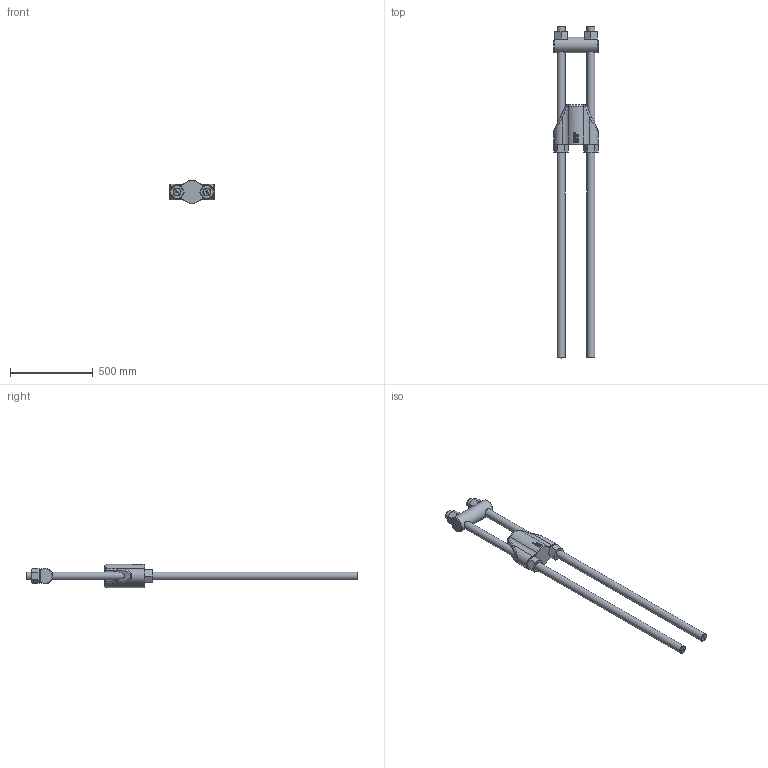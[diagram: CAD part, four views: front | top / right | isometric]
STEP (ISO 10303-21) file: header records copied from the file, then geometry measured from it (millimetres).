
FILE_DESCRIPTION(/* description */ (''),/* implementation_level */ '2;1');
FILE_NAME(/* name */ 'D:\Clienti\Redaelli (inventor)\BRC\STEP\Arrangemet\BRC044 72 111 0.stp',/* time_stamp */ '2021-05-08T08:25:55+02:00',/* author */ ('fabri'),/* organization */ (''),/* preprocessor_version */ 'ST-DEVELOPER v16.13',/* originating_system */ 'Autodesk Inventor 2018',/* authorisation */ '');
FILE_SCHEMA (('AUTOMOTIVE_DESIGN { 1 0 10303 214 3 1 1 }'));
Length unit declared in the file: millimetre
Products named in the file (5): BRC020 72 111 0; BRC020 71 112 0; BRC020 71 114 0_ROD; BRC020 71 113 0; BRC020 71 114 0_NUT
Assembly tree (8 placements, depth 2):
  BRC020 72 111 0
    BRC020 71 112 0
    BRC020 71 114 0_ROD  x2
    BRC020 71 113 0
    BRC020 71 114 0_NUT  x4
Bounding box: 268 x 2000 x 139.77 mm (x, y, z)
Volume: 14008592.4 mm3; surface area: 1041028.2 mm2
Topology: 8 solids, 8 shells, 1514 faces, 3972 edges, 2616 vertices
Faces by surface type: plane 876, bspline 503, cone 62, cylinder 49, torus 20, sphere 4
Full cylindrical faces by diameter (mm): 44.752 x4, 48 x2, 50 x4, 94 x1
Entity records: 28752 total; most frequent: CARTESIAN_POINT 10087, ORIENTED_EDGE 4298, DIRECTION 2899, EDGE_CURVE 2149, VERTEX_POINT 1422, LINE 1311, VECTOR 1311, EDGE_LOOP 921
